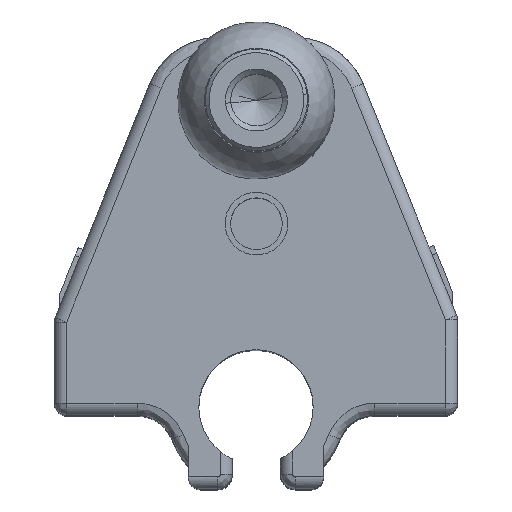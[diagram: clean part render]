
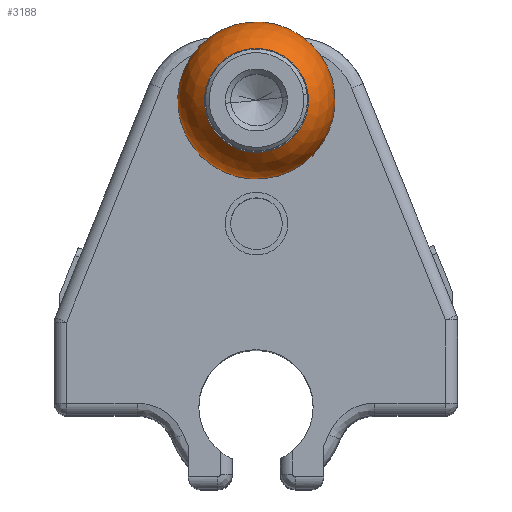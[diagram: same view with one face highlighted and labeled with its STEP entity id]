
A CAD part, top view. The second image highlights one B-rep face of the part: STEP entity #3188.
In plain terms, the highlighted spherical face has radius 6.4 mm.
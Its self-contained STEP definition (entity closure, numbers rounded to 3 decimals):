
#148 = AXIS2_PLACEMENT_3D ( 'NONE', #5414, #1235, #4543 ) ;
#329 = VERTEX_POINT ( 'NONE', #2617 ) ;
#352 = CARTESIAN_POINT ( 'NONE',  ( -11.19, 15.694, 13.927 ) ) ;
#544 = CIRCLE ( 'NONE', #3324, 4.233 ) ;
#545 = CARTESIAN_POINT ( 'NONE',  ( -15.4, 15.25, 9.127 ) ) ;
#1008 = DIRECTION ( 'NONE',  ( 0., -1., 0. ) ) ;
#1022 = DIRECTION ( 'NONE',  ( 0.994, 0.105, 0. ) ) ;
#1083 = CARTESIAN_POINT ( 'NONE',  ( -14.729, 8.885, 9.127 ) ) ;
#1182 = EDGE_CURVE ( 'NONE', #2701, #5244, #1495, .T. ) ;
#1235 = DIRECTION ( 'NONE',  ( 0., 0., -1. ) ) ;
#1241 = DIRECTION ( 'NONE',  ( 0., 0., 1. ) ) ;
#1294 = ORIENTED_EDGE ( 'NONE', *, *, #1572, .F. ) ;
#1303 = ORIENTED_EDGE ( 'NONE', *, *, #5392, .F. ) ;
#1464 = CARTESIAN_POINT ( 'NONE',  ( -15.4, 15.25, 13.927 ) ) ;
#1476 = ORIENTED_EDGE ( 'NONE', *, *, #5984, .F. ) ;
#1495 = CIRCLE ( 'NONE', #4459, 6.4 ) ;
#1572 = EDGE_CURVE ( 'NONE', #2701, #5244, #3965, .T. ) ;
#1824 = DIRECTION ( 'NONE',  ( 0., 1., 0. ) ) ;
#1874 = DIRECTION ( 'NONE',  ( 0., 0., 1. ) ) ;
#2617 = CARTESIAN_POINT ( 'NONE',  ( -19.61, 14.806, 13.927 ) ) ;
#2649 = VERTEX_POINT ( 'NONE', #352 ) ;
#2660 = FACE_BOUND ( 'NONE', #5966, .T. ) ;
#2701 = VERTEX_POINT ( 'NONE', #3961 ) ;
#3188 = ADVANCED_FACE ( 'NONE', ( #6004, #2660 ), #5477, .T. ) ;
#3324 = AXIS2_PLACEMENT_3D ( 'NONE', #5072, #1241, #4571 ) ;
#3961 = CARTESIAN_POINT ( 'NONE',  ( -16.071, 21.615, 9.127 ) ) ;
#3965 = CIRCLE ( 'NONE', #5053, 6.4 ) ;
#4459 = AXIS2_PLACEMENT_3D ( 'NONE', #545, #1874, #1008 ) ;
#4543 = DIRECTION ( 'NONE',  ( -0.994, -0.105, 0. ) ) ;
#4571 = DIRECTION ( 'NONE',  ( 0.994, 0.105, 0. ) ) ;
#4604 = CIRCLE ( 'NONE', #4701, 4.233 ) ;
#4701 = AXIS2_PLACEMENT_3D ( 'NONE', #1464, #5294, #1022 ) ;
#5053 = AXIS2_PLACEMENT_3D ( 'NONE', #5079, #5521, #1824 ) ;
#5072 = CARTESIAN_POINT ( 'NONE',  ( -15.4, 15.25, 13.927 ) ) ;
#5079 = CARTESIAN_POINT ( 'NONE',  ( -15.4, 15.25, 9.127 ) ) ;
#5159 = EDGE_LOOP ( 'NONE', ( #1294, #6075 ) ) ;
#5244 = VERTEX_POINT ( 'NONE', #1083 ) ;
#5294 = DIRECTION ( 'NONE',  ( 0., 0., 1. ) ) ;
#5392 = EDGE_CURVE ( 'NONE', #329, #2649, #544, .T. ) ;
#5414 = CARTESIAN_POINT ( 'NONE',  ( -15.4, 15.25, 9.127 ) ) ;
#5477 = SPHERICAL_SURFACE ( 'NONE', #148, 6.4 ) ;
#5521 = DIRECTION ( 'NONE',  ( 0., 0., -1. ) ) ;
#5966 = EDGE_LOOP ( 'NONE', ( #1476, #1303 ) ) ;
#5984 = EDGE_CURVE ( 'NONE', #2649, #329, #4604, .T. ) ;
#6004 = FACE_OUTER_BOUND ( 'NONE', #5159, .T. ) ;
#6075 = ORIENTED_EDGE ( 'NONE', *, *, #1182, .T. ) ;
